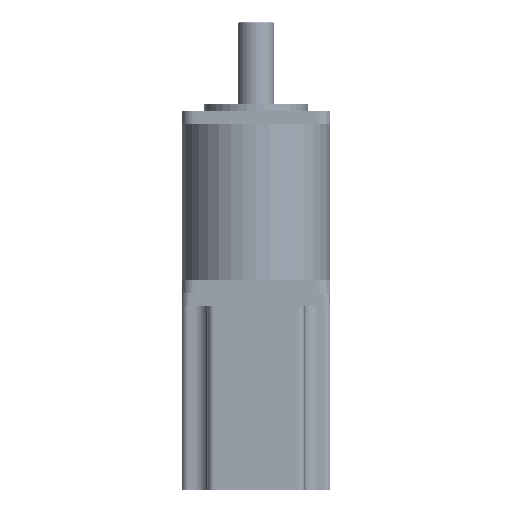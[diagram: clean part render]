
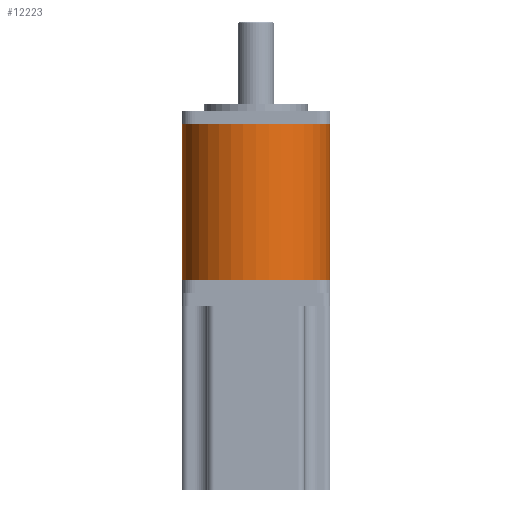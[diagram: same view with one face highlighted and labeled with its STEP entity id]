
A CAD part, front view. The second image highlights one B-rep face of the part: STEP entity #12223.
In plain terms, the highlighted cylindrical face has radius 28.5 mm (diameter 57 mm), a partial arc.
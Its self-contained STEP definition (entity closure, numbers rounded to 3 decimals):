
#627 = DIRECTION ( 'NONE',  ( -1., 0., 0. ) ) ;
#1065 = VERTEX_POINT ( 'NONE', #8669 ) ;
#1163 = ORIENTED_EDGE ( 'NONE', *, *, #34995, .F. ) ;
#1474 = ORIENTED_EDGE ( 'NONE', *, *, #7754, .T. ) ;
#1600 = AXIS2_PLACEMENT_3D ( 'NONE', #33065, #16829, #627 ) ;
#2058 = VECTOR ( 'NONE', #33265, 1000. ) ;
#2328 = FACE_OUTER_BOUND ( 'NONE', #14807, .T. ) ;
#3256 = CARTESIAN_POINT ( 'NONE',  ( 28.5, 0., 5. ) ) ;
#3546 = CARTESIAN_POINT ( 'NONE',  ( -28.5, 0., 65. ) ) ;
#6869 = VERTEX_POINT ( 'NONE', #28751 ) ;
#7110 = VERTEX_POINT ( 'NONE', #21615 ) ;
#7754 = EDGE_CURVE ( 'NONE', #6869, #7902, #12211, .T. ) ;
#7902 = VERTEX_POINT ( 'NONE', #12021 ) ;
#8414 = DIRECTION ( 'NONE',  ( 0., 0., -1. ) ) ;
#8669 = CARTESIAN_POINT ( 'NONE',  ( 0., -28.5, 65. ) ) ;
#8956 = DIRECTION ( 'NONE',  ( 0., 0., -1. ) ) ;
#9305 = EDGE_CURVE ( 'NONE', #1065, #6869, #20244, .T. ) ;
#9709 = EDGE_CURVE ( 'NONE', #32435, #7902, #24475, .T. ) ;
#11418 = EDGE_CURVE ( 'NONE', #15334, #32435, #28232, .T. ) ;
#12021 = CARTESIAN_POINT ( 'NONE',  ( -28.5, 0., 5. ) ) ;
#12211 = LINE ( 'NONE', #3546, #17732 ) ;
#12223 = ADVANCED_FACE ( 'NONE', ( #2328 ), #30295, .T. ) ;
#12577 = ORIENTED_EDGE ( 'NONE', *, *, #24867, .T. ) ;
#12975 = AXIS2_PLACEMENT_3D ( 'NONE', #26363, #15717, #31943 ) ;
#13292 = ORIENTED_EDGE ( 'NONE', *, *, #9709, .F. ) ;
#13755 = ORIENTED_EDGE ( 'NONE', *, *, #9305, .T. ) ;
#13818 = CARTESIAN_POINT ( 'NONE',  ( 0., 0., 65. ) ) ;
#14807 = EDGE_LOOP ( 'NONE', ( #1163, #12577, #13755, #1474, #13292, #33542 ) ) ;
#15334 = VERTEX_POINT ( 'NONE', #3256 ) ;
#15717 = DIRECTION ( 'NONE',  ( 0., 0., -1. ) ) ;
#15730 = CARTESIAN_POINT ( 'NONE',  ( 0., 0., 5. ) ) ;
#16472 = LINE ( 'NONE', #30546, #2058 ) ;
#16568 = DIRECTION ( 'NONE',  ( -1., 0., 0. ) ) ;
#16740 = AXIS2_PLACEMENT_3D ( 'NONE', #13818, #32795, #16568 ) ;
#16829 = DIRECTION ( 'NONE',  ( 0., 0., -1. ) ) ;
#17732 = VECTOR ( 'NONE', #8956, 1000. ) ;
#18452 = DIRECTION ( 'NONE',  ( -1., 0., 0. ) ) ;
#20244 = CIRCLE ( 'NONE', #1600, 28.5 ) ;
#21615 = CARTESIAN_POINT ( 'NONE',  ( 28.5, 0., 65. ) ) ;
#24475 = CIRCLE ( 'NONE', #26318, 28.5 ) ;
#24636 = CARTESIAN_POINT ( 'NONE',  ( 0., 0., 5. ) ) ;
#24867 = EDGE_CURVE ( 'NONE', #7110, #1065, #31741, .T. ) ;
#26318 = AXIS2_PLACEMENT_3D ( 'NONE', #15730, #34678, #18452 ) ;
#26363 = CARTESIAN_POINT ( 'NONE',  ( 0., 0., 65. ) ) ;
#26585 = AXIS2_PLACEMENT_3D ( 'NONE', #24636, #8414, #27366 ) ;
#27366 = DIRECTION ( 'NONE',  ( -1., 0., 0. ) ) ;
#28232 = CIRCLE ( 'NONE', #26585, 28.5 ) ;
#28751 = CARTESIAN_POINT ( 'NONE',  ( -28.5, 0., 65. ) ) ;
#30295 = CYLINDRICAL_SURFACE ( 'NONE', #12975, 28.5 ) ;
#30546 = CARTESIAN_POINT ( 'NONE',  ( 28.5, 0., 65. ) ) ;
#31741 = CIRCLE ( 'NONE', #16740, 28.5 ) ;
#31943 = DIRECTION ( 'NONE',  ( -1., 0., 0. ) ) ;
#32435 = VERTEX_POINT ( 'NONE', #34058 ) ;
#32795 = DIRECTION ( 'NONE',  ( 0., 0., -1. ) ) ;
#33065 = CARTESIAN_POINT ( 'NONE',  ( 0., 0., 65. ) ) ;
#33265 = DIRECTION ( 'NONE',  ( 0., 0., -1. ) ) ;
#33542 = ORIENTED_EDGE ( 'NONE', *, *, #11418, .F. ) ;
#34058 = CARTESIAN_POINT ( 'NONE',  ( 0., -28.5, 5. ) ) ;
#34678 = DIRECTION ( 'NONE',  ( 0., 0., -1. ) ) ;
#34995 = EDGE_CURVE ( 'NONE', #7110, #15334, #16472, .T. ) ;
